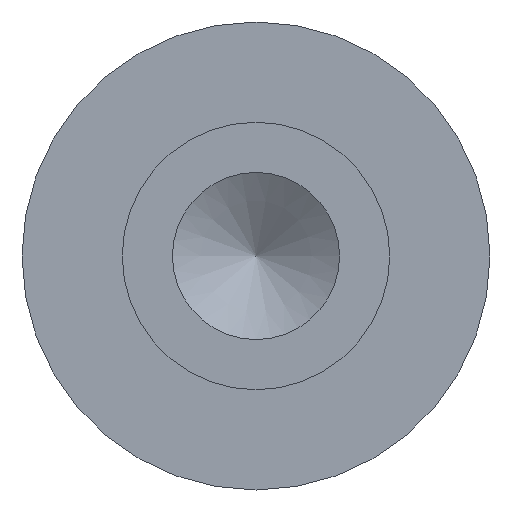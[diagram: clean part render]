
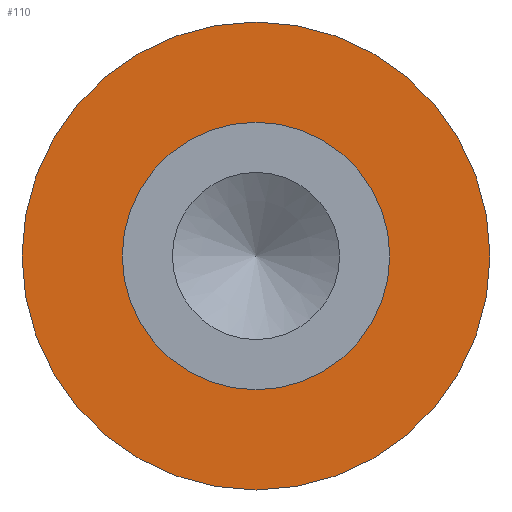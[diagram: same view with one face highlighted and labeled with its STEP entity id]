
A CAD part, left-side view. The second image highlights one B-rep face of the part: STEP entity #110.
In plain terms, the highlighted planar face has unit normal (-1, 0, 0).
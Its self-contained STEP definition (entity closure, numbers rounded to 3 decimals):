
#14=PLANE($,#130);
#21=FACE_BOUND($,#50,.T.);
#37=FACE_OUTER_BOUND($,#49,.T.);
#49=EDGE_LOOP($,(#94));
#50=EDGE_LOOP($,(#95));
#62=CIRCLE($,#128,0.508);
#64=CIRCLE($,#131,0.889);
#71=VERTEX_POINT($,#193);
#73=VERTEX_POINT($,#198);
#80=EDGE_CURVE($,#71,#71,#62,.T.);
#82=EDGE_CURVE($,#73,#73,#64,.T.);
#94=ORIENTED_EDGE($,*,*,#82,.F.);
#95=ORIENTED_EDGE($,*,*,#80,.T.);
#110=ADVANCED_FACE($,(#37,#21),#14,.T.);
#128=AXIS2_PLACEMENT_3D($,#194,#160,#161);
#130=AXIS2_PLACEMENT_3D($,#197,#164,#165);
#131=AXIS2_PLACEMENT_3D($,#199,#166,#167);
#160=DIRECTION('center_axis',(1.,0.,0.));
#161=DIRECTION('ref_axis',(0.,1.,0.));
#164=DIRECTION('center_axis',(-1.,0.,0.));
#165=DIRECTION('ref_axis',(0.,0.,1.));
#166=DIRECTION('center_axis',(1.,0.,0.));
#167=DIRECTION('ref_axis',(0.,1.,0.));
#193=CARTESIAN_POINT('',(2.87,0.508,0.));
#194=CARTESIAN_POINT('Origin',(2.87,0.,0.));
#197=CARTESIAN_POINT('Origin',(2.87,0.699,0.));
#198=CARTESIAN_POINT('',(2.87,0.889,0.));
#199=CARTESIAN_POINT('Origin',(2.87,0.,0.));
